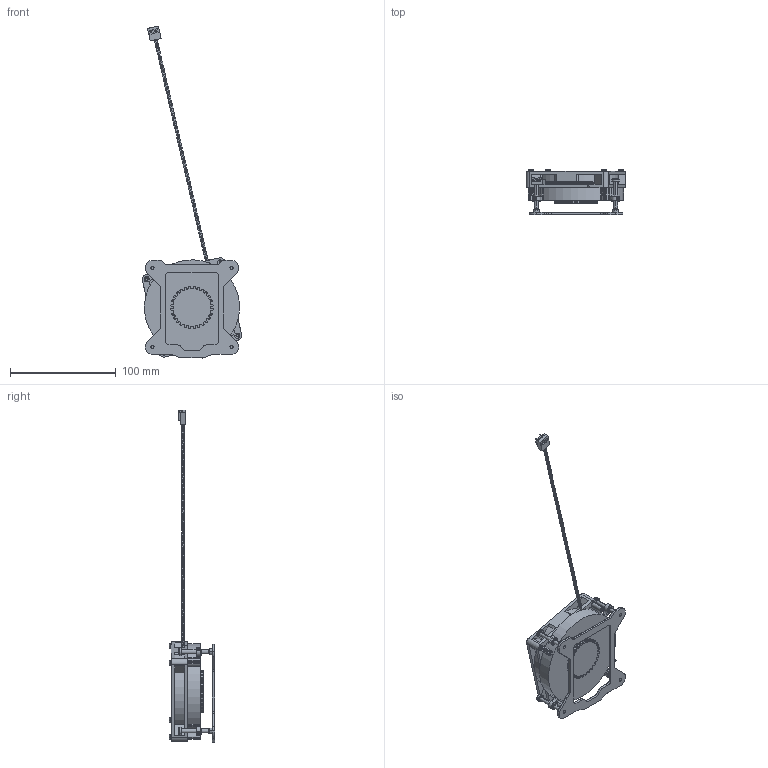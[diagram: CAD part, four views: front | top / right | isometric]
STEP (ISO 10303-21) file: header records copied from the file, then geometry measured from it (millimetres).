
FILE_DESCRIPTION((''),'2;1');
FILE_NAME('RG3119-30-002_ME_ASM','2022-11-03T',('User'),(''),'PRO/ENGINEER BY PARAMETRIC TECHNOLOGY CORPORATION, 2017170','PRO/ENGINEER BY PARAMETRIC TECHNOLOGY CORPORATION, 2017170','');
FILE_SCHEMA(('CONFIG_CONTROL_DESIGN'));
Length unit declared in the file: millimetre
Products named in the file (17): D90X15_AL_SINK__3; D90_15H_AL_ASSY_ASM_1_ASM; DEAKTOP_SCREW_D7_30_8L_1; E-RING_1; DESKTOP_SCREW_ASSY_ASM_1_ASM; DESKTOP_D90_15H_AL_ASSY_ASM_1_ASM; 230FR08015A0013_3; 4P-PLUGZ__VORTEX__1; FAN_SCREW_T3X25MM_1; 1_1; LABEL_R30_1_1; AD0812VB-D7B_NS75__1_ASM_1_ASM; 850-BP1156_1; MYLER_1; 850-BP1156_ASSY__ASM_1_ASM; RG3119-30_ASM_1_ASM; RG3119-30-002_ME_ASM
Assembly tree (22 placements, depth 5):
  RG3119-30-002_ME_ASM
    RG3119-30_ASM_1_ASM
      DESKTOP_D90_15H_AL_ASSY_ASM_1_ASM
        D90_15H_AL_ASSY_ASM_1_ASM
          D90X15_AL_SINK__3
        DESKTOP_SCREW_ASSY_ASM_1_ASM  x4
          DEAKTOP_SCREW_D7_30_8L_1
          E-RING_1
      AD0812VB-D7B_NS75__1_ASM_1_ASM
        230FR08015A0013_3
        4P-PLUGZ__VORTEX__1
        FAN_SCREW_T3X25MM_1  x4
        1_1
        LABEL_R30_1_1
      850-BP1156_ASSY__ASM_1_ASM
        850-BP1156_1
        MYLER_1
Bounding box: 94.24 x 43.1 x 314.61 mm (x, y, z)
Volume: 157619.1 mm3; surface area: 75457.1 mm2
Topology: 19 solids, 33 shells, 3436 faces, 9377 edges, 6067 vertices
Faces by surface type: plane 1900, cylinder 700, bspline 688, extrusion 95, torus 34, cone 19
Entity records: 148275 total; most frequent: CARTESIAN_POINT 88768, ORIENTED_EDGE 13632, DIRECTION 9891, EDGE_CURVE 6858, VERTEX_POINT 4402, VECTOR 4037, LINE 3942, AXIS2_PLACEMENT_3D 2927
